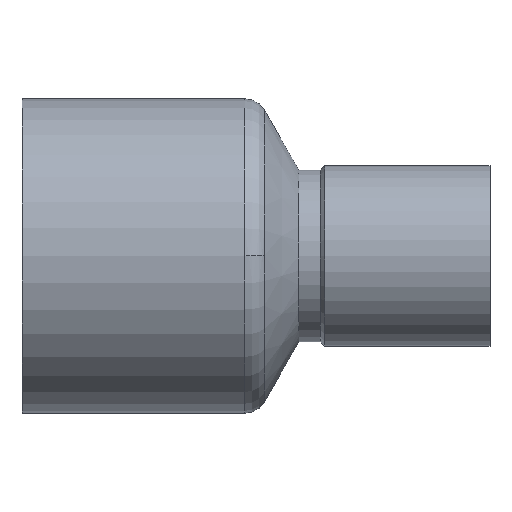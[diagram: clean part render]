
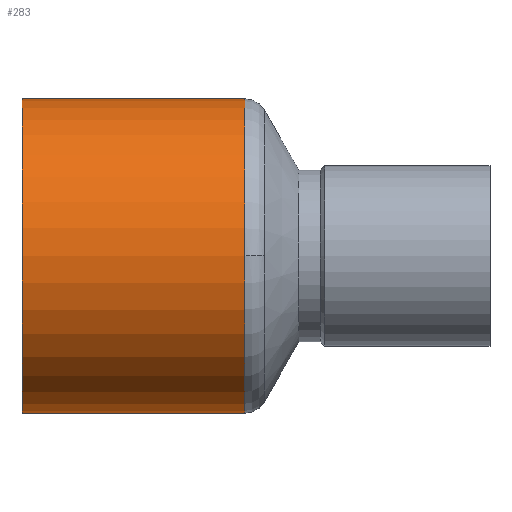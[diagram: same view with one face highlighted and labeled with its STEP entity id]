
A CAD part, top view. The second image highlights one B-rep face of the part: STEP entity #283.
In plain terms, the highlighted cylindrical face has radius 7.055 mm (diameter 14.11 mm), a partial arc.
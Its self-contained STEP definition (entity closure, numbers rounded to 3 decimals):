
#207=CARTESIAN_POINT('',(10.,7.055,0.0));
#208=VERTEX_POINT('',#207);
#216=CARTESIAN_POINT('',(10.0,0.,7.055));
#217=VERTEX_POINT('',#216);
#218=CARTESIAN_POINT('',(10.,0.0,0.0));
#219=DIRECTION('',(1.0,0.0,0.0));
#220=DIRECTION('',(0.0,1.0,0.0));
#221=AXIS2_PLACEMENT_3D('',#218,#219,#220);
#222=CIRCLE('',#221,7.055);
#223=EDGE_CURVE('',#208,#217,#222,.T.);
#243=CARTESIAN_POINT('',(5.0,0.0,0.0));
#244=DIRECTION('',(1.0,0.0,0.0));
#245=DIRECTION('',(0.0,1.0,0.0));
#246=AXIS2_PLACEMENT_3D('',#243,#244,#245);
#247=CYLINDRICAL_SURFACE('',#246,7.055);
#248=CARTESIAN_POINT('',(0.0,7.055,0.0));
#249=VERTEX_POINT('',#248);
#250=CARTESIAN_POINT('',(0.0,7.055,0.0));
#251=DIRECTION('',(1.0,0.0,0.0));
#252=VECTOR('',#251,10.);
#253=LINE('',#250,#252);
#254=EDGE_CURVE('',#249,#208,#253,.T.);
#255=ORIENTED_EDGE('',*,*,#254,.F.);
#256=CARTESIAN_POINT('',(0.0,-7.055,0.));
#257=VERTEX_POINT('',#256);
#258=CARTESIAN_POINT('',(0.0,0.0,0.0));
#259=DIRECTION('',(1.0,0.0,0.0));
#260=DIRECTION('',(0.0,1.0,0.0));
#261=AXIS2_PLACEMENT_3D('',#258,#259,#260);
#262=CIRCLE('',#261,7.055);
#263=EDGE_CURVE('',#249,#257,#262,.T.);
#264=ORIENTED_EDGE('',*,*,#263,.T.);
#265=CARTESIAN_POINT('',(10.,-7.055,0.));
#266=VERTEX_POINT('',#265);
#267=CARTESIAN_POINT('',(10.,-7.055,0.));
#268=DIRECTION('',(-1.0,0.0,0.0));
#269=VECTOR('',#268,10.);
#270=LINE('',#267,#269);
#271=EDGE_CURVE('',#266,#257,#270,.T.);
#272=ORIENTED_EDGE('',*,*,#271,.F.);
#273=CARTESIAN_POINT('',(10.,0.0,0.0));
#274=DIRECTION('',(1.0,0.0,0.0));
#275=DIRECTION('',(0.0,1.0,0.0));
#276=AXIS2_PLACEMENT_3D('',#273,#274,#275);
#277=CIRCLE('',#276,7.055);
#278=EDGE_CURVE('',#217,#266,#277,.T.);
#279=ORIENTED_EDGE('',*,*,#278,.F.);
#280=ORIENTED_EDGE('',*,*,#223,.F.);
#281=EDGE_LOOP('',(#255,#264,#272,#279,#280));
#282=FACE_OUTER_BOUND('',#281,.T.);
#283=ADVANCED_FACE('',(#282),#247,.T.);
